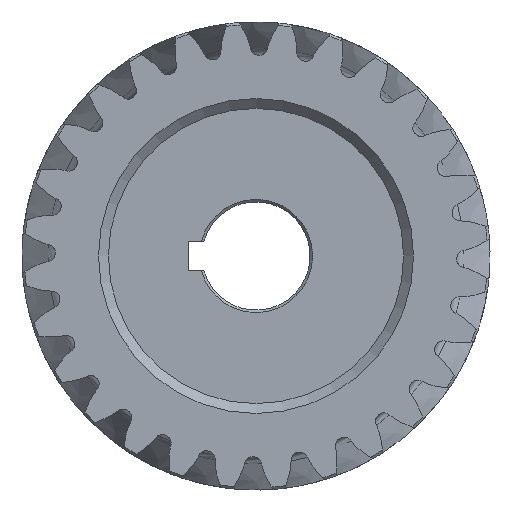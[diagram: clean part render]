
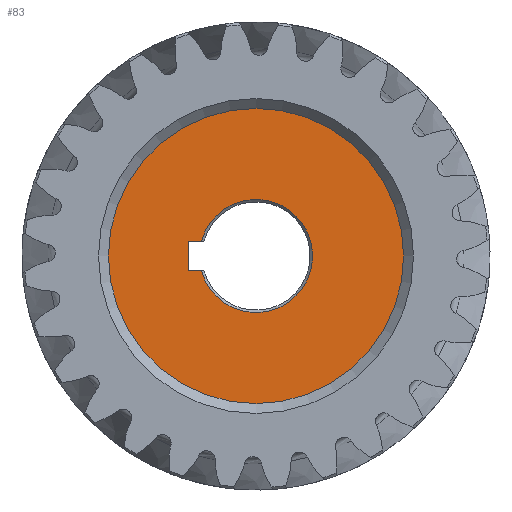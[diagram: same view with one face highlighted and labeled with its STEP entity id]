
A CAD part, left-side view. The second image highlights one B-rep face of the part: STEP entity #83.
In plain terms, the highlighted planar face has unit normal (-1, 0, 0).
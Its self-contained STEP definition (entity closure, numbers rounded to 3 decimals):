
#83=ADVANCED_FACE('',(#2258,#2260),#2262,.T.);
#2258=FACE_BOUND('',#2259,.T.);
#2259=EDGE_LOOP('',(#8884));
#2260=FACE_BOUND('',#2261,.T.);
#2261=EDGE_LOOP('',(#8885,#8886,#8887,#8888,#8889,#8890));
#2262=PLANE('',#2263);
#2263=AXIS2_PLACEMENT_3D('',#2264,#2265,#2266);
#2264=CARTESIAN_POINT('',(8.,0.,0.));
#2265=DIRECTION('',(-1.,-0.,-0.));
#2266=DIRECTION('',(0.,0.,-1.));
#8884=ORIENTED_EDGE('',*,*,#10287,.T.);
#8885=ORIENTED_EDGE('',*,*,#10288,.T.);
#8886=ORIENTED_EDGE('',*,*,#10280,.F.);
#8887=ORIENTED_EDGE('',*,*,#10289,.T.);
#8888=ORIENTED_EDGE('',*,*,#10290,.T.);
#8889=ORIENTED_EDGE('',*,*,#10291,.T.);
#8890=ORIENTED_EDGE('',*,*,#10292,.T.);
#10280=EDGE_CURVE('',#10988,#10983,#10990,.F.);
#10287=EDGE_CURVE('',#11002,#11002,#11003,.T.);
#10288=EDGE_CURVE('',#11004,#10983,#11005,.F.);
#10289=EDGE_CURVE('',#10988,#11006,#11007,.F.);
#10290=EDGE_CURVE('',#11006,#11008,#11009,.F.);
#10291=EDGE_CURVE('',#11008,#11010,#11011,.F.);
#10292=EDGE_CURVE('',#11010,#11004,#11012,.F.);
#10983=VERTEX_POINT('',#12171);
#10988=VERTEX_POINT('',#12184);
#10990=CIRCLE('',#12191,11.5);
#11002=VERTEX_POINT('',#12221);
#11003=CIRCLE('',#12222,30.);
#11004=VERTEX_POINT('',#12226);
#11005=LINE('',#12227,#12228);
#11006=VERTEX_POINT('',#12230);
#11007=LINE('',#12231,#12232);
#11008=VERTEX_POINT('',#12234);
#11009=CIRCLE('',#12235,0.25);
#11010=VERTEX_POINT('',#12239);
#11011=LINE('',#12240,#12241);
#11012=CIRCLE('',#12243,0.25);
#12171=CARTESIAN_POINT('',(8.,11.102,3.));
#12184=CARTESIAN_POINT('',(8.,11.102,-3.));
#12191=AXIS2_PLACEMENT_3D('',#12192,#12193,#12194);
#12192=CARTESIAN_POINT('',(8.,0.,0.));
#12193=DIRECTION('',(1.,0.,0.));
#12194=DIRECTION('',(0.,0.965,0.261));
#12221=CARTESIAN_POINT('',(8.,0.,-30.));
#12222=AXIS2_PLACEMENT_3D('',#12223,#12224,#12225);
#12223=CARTESIAN_POINT('',(8.,0.,0.));
#12224=DIRECTION('',(-1.,-0.,-0.));
#12225=DIRECTION('',(0.,0.,-1.));
#12226=CARTESIAN_POINT('',(8.,13.55,3.));
#12227=CARTESIAN_POINT('',(8.,11.102,3.));
#12228=VECTOR('',#12229,1.);
#12229=DIRECTION('',(0.,1.,0.));
#12230=CARTESIAN_POINT('',(8.,13.55,-3.));
#12231=CARTESIAN_POINT('',(8.,13.55,-3.));
#12232=VECTOR('',#12233,1.);
#12233=DIRECTION('',(0.,-1.,0.));
#12234=CARTESIAN_POINT('',(8.,13.8,-2.75));
#12235=AXIS2_PLACEMENT_3D('',#12236,#12237,#12238);
#12236=CARTESIAN_POINT('',(8.,13.55,-2.75));
#12237=DIRECTION('',(-1.,0.,0.));
#12238=DIRECTION('',(0.,1.,0.));
#12239=CARTESIAN_POINT('',(8.,13.8,2.75));
#12240=CARTESIAN_POINT('',(8.,13.8,2.75));
#12241=VECTOR('',#12242,1.);
#12242=DIRECTION('',(0.,0.,-1.));
#12243=AXIS2_PLACEMENT_3D('',#12244,#12245,#12246);
#12244=CARTESIAN_POINT('',(8.,13.55,2.75));
#12245=DIRECTION('',(-1.,0.,0.));
#12246=DIRECTION('',(0.,0.,1.));
